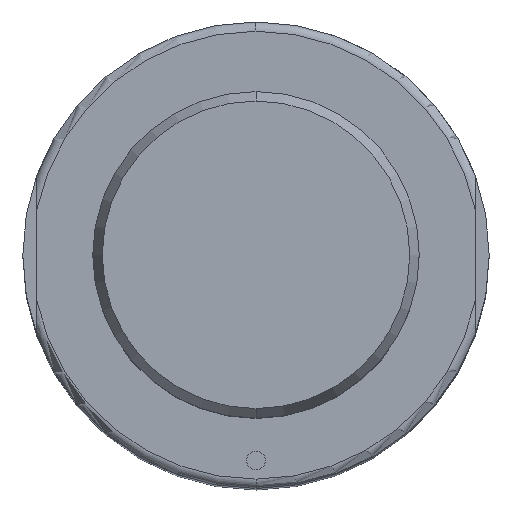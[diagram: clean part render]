
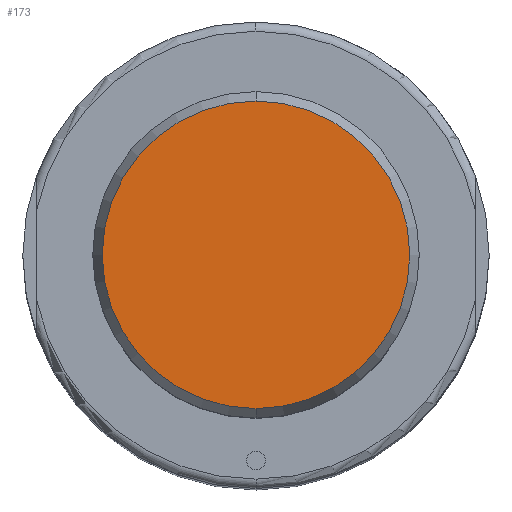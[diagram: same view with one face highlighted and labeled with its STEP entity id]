
A CAD part, top view. The second image highlights one B-rep face of the part: STEP entity #173.
In plain terms, the highlighted planar face has unit normal (0, 0, 1).
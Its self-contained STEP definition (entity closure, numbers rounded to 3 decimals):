
#124=PLANE('',#990);
#173=ADVANCED_FACE('',(#244),#124,.T.);
#244=FACE_OUTER_BOUND('',#297,.T.);
#297=EDGE_LOOP('',(#457,#458));
#364=CIRCLE('',#975,16.481);
#365=CIRCLE('',#977,16.481);
#457=ORIENTED_EDGE('',*,*,#758,.F.);
#458=ORIENTED_EDGE('',*,*,#759,.F.);
#677=VERTEX_POINT('',#1413);
#680=VERTEX_POINT('',#1418);
#758=EDGE_CURVE('',#680,#677,#364,.T.);
#759=EDGE_CURVE('',#677,#680,#365,.T.);
#975=AXIS2_PLACEMENT_3D('',#1419,#1109,#1110);
#977=AXIS2_PLACEMENT_3D('',#1421,#1113,#1114);
#990=AXIS2_PLACEMENT_3D('',#1444,#1143,#1144);
#1109=DIRECTION('',(0.,0.,-1.));
#1110=DIRECTION('',(-1.,0.,0.));
#1113=DIRECTION('',(0.,0.,-1.));
#1114=DIRECTION('',(1.,0.,0.));
#1143=DIRECTION('',(0.,0.,1.));
#1144=DIRECTION('',(0.,-1.,0.));
#1413=CARTESIAN_POINT('',(0.,-16.481,120.));
#1418=CARTESIAN_POINT('',(0.,16.481,120.));
#1419=CARTESIAN_POINT('',(0.,0.,120.));
#1421=CARTESIAN_POINT('',(0.,0.,120.));
#1444=CARTESIAN_POINT('',(0.,0.,120.));
